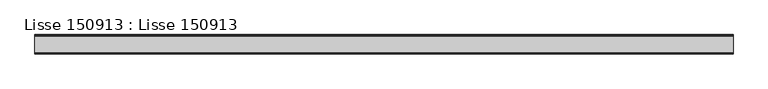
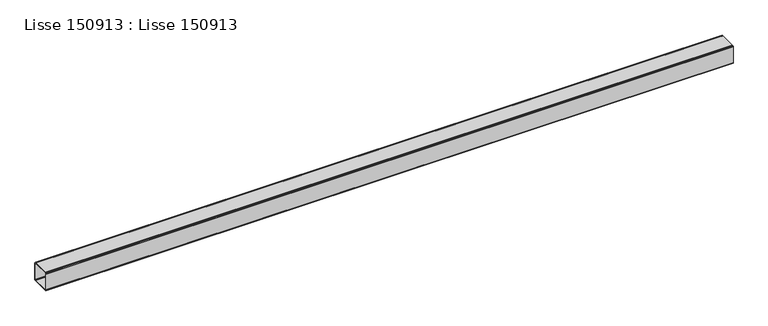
"""IFC4 building model written with IfcOpenShell, lengths in millimetres: beam geometry, Lisse 150913 : Lisse 150913."""

from ifc_helpers import new_model, si_unit, frame, origin, place, context, project, spatial, polyline, outline, extrude, source, transform, mapped, element, save


def lisse_150913_lisse_150913_6b22b6c6(model_context):
    return source(origin(), model_context, "Body", "SweptSolid", [
        extrude(outline(polyline([(1.0, 3200.0), (89.0, 3200.0), (92.0, 3199.1961524), (94.1961524, 3197.0), (95.0, 3194.0), (95.0, 3106.0), (94.1961524, 3103.0), (92.0, 3100.8038476), (89.0, 3100.0), (1.0, 3100.0), (-2.0, 3100.8038476), (-4.1961524, 3103.0), (-5.0, 3106.0), (-5.0, 3194.0), (-4.1961524, 3197.0), (-2.0, 3199.1961524), (1.0, 3200.0)]), holes=[polyline([(3.0, 3104.0), (87.0, 3104.0), (89.0, 3104.5358984), (90.4641016, 3106.0), (91.0, 3108.0), (91.0, 3192.0), (90.4641016, 3194.0), (89.0, 3195.4641016), (87.0, 3196.0), (3.0, 3196.0), (1.0, 3195.4641016), (-0.4641016, 3194.0), (-1.0, 3192.0), (-1.0, 3108.0), (-0.4641016, 3106.0), (1.0, 3104.5358984), (3.0, 3104.0)])]), frame((11557.4999999, 0.0, 0.0), z_axis=(1.0, 0.0, 0.0), x_axis=(0.0, 1.0, 0.0)), (0.0, 0.0, 1.0), 3597.5),
    ])


if __name__ == "__main__":
    model = new_model("IFC4")
    model_context = context("Model", 3, world=origin())
    ifc_project = project(units=[si_unit("LENGTHUNIT", "METRE", prefix="MILLI")], contexts=[model_context])
    site = spatial("IfcSite", under=ifc_project)
    building = spatial("IfcBuilding", under=site)
    placement = place(None, origin())
    lisse_150913_lisse_150913_shape = lisse_150913_lisse_150913_6b22b6c6(model_context)
    element("IfcBeam", 1, ObjectType="Lisse 150913 : Lisse 150913", at=placement, inside=building, context=model_context, shape_type="MappedRepresentation", body=[
        mapped(lisse_150913_lisse_150913_shape, transform((0.0, 0.0, 0.0), x_axis=(1.0, 0.0, 0.0), y_axis=(0.0, 1.0, 0.0), z_axis=(0.0, 0.0, 1.0))),
    ])
    save(model, "model.ifc")
